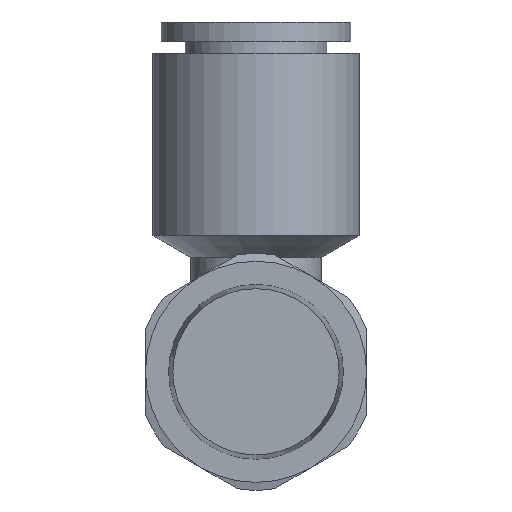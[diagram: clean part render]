
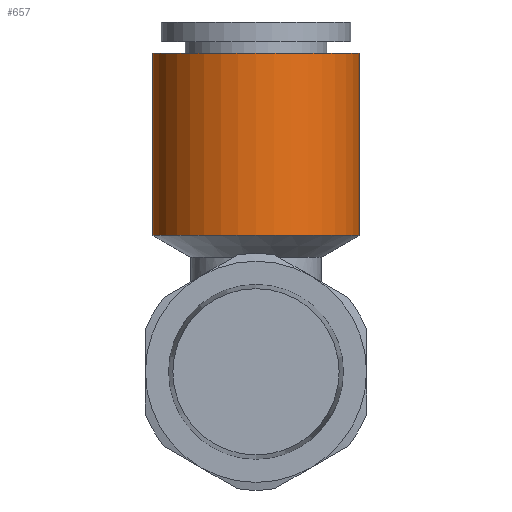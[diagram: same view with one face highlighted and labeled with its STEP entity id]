
A CAD part, front view. The second image highlights one B-rep face of the part: STEP entity #657.
In plain terms, the highlighted cylindrical face has radius 7.95 mm (diameter 15.9 mm), a full revolution.
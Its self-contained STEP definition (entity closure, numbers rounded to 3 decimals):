
#78=CYLINDRICAL_SURFACE('',#759,7.95);
#273=ORIENTED_EDGE('',*,*,#364,.F.);
#274=ORIENTED_EDGE('',*,*,#363,.T.);
#363=EDGE_CURVE('',#422,#422,#466,.T.);
#364=EDGE_CURVE('',#423,#423,#467,.T.);
#422=VERTEX_POINT('',#1245);
#423=VERTEX_POINT('',#1248);
#466=CIRCLE('',#758,7.95);
#467=CIRCLE('',#760,7.95);
#527=EDGE_LOOP('',(#273));
#528=EDGE_LOOP('',(#274));
#592=FACE_BOUND('',#527,.T.);
#593=FACE_BOUND('',#528,.T.);
#657=ADVANCED_FACE('',(#592,#593),#78,.T.);
#758=AXIS2_PLACEMENT_3D('',#1244,#949,#950);
#759=AXIS2_PLACEMENT_3D('',#1246,#951,#952);
#760=AXIS2_PLACEMENT_3D('',#1247,#953,#954);
#949=DIRECTION('',(0.,0.,-1.));
#950=DIRECTION('',(-1.,0.,0.));
#951=DIRECTION('',(0.,0.,-1.));
#952=DIRECTION('',(-1.,0.,0.));
#953=DIRECTION('',(0.,0.,-1.));
#954=DIRECTION('',(-1.,0.,0.));
#1244=CARTESIAN_POINT('',(0.,17.1,24.5));
#1245=CARTESIAN_POINT('',(-7.95,17.1,24.5));
#1246=CARTESIAN_POINT('',(0.,17.1,0.));
#1247=CARTESIAN_POINT('',(0.,17.1,10.5));
#1248=CARTESIAN_POINT('',(-7.95,17.1,10.5));
